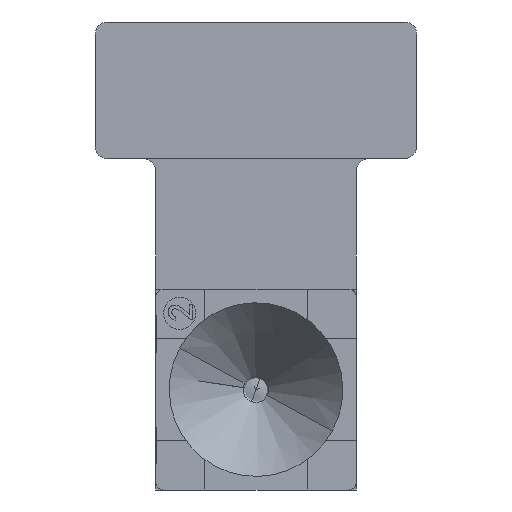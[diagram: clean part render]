
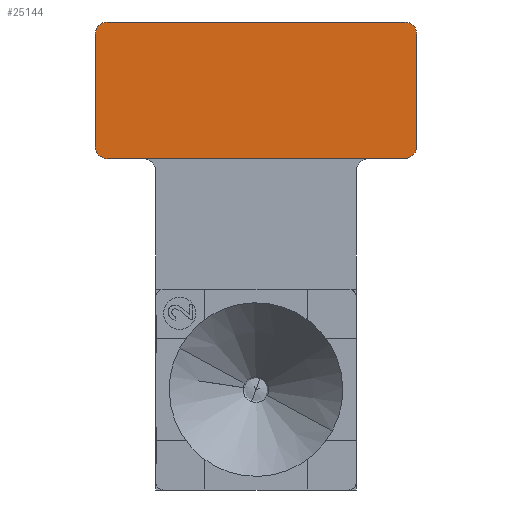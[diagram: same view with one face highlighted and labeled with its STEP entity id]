
A CAD part, front view. The second image highlights one B-rep face of the part: STEP entity #25144.
In plain terms, the highlighted planar face has unit normal (0, -1, 0) as drawn and (0, 0, 1) by its records, which use the part's own axes.
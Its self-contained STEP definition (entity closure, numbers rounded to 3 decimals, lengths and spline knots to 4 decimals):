
#25052=VECTOR('Line Direction',#25051,1.) ;
#25085=VECTOR('Line Direction',#25084,1.) ;
#25108=VECTOR('Line Direction',#25107,1.) ;
#25131=VECTOR('Line Direction',#25130,1.) ;
#24930=DIRECTION('Axis2P3D Direction',(0.,0.,-1.)) ;
#25051=DIRECTION('Vector Direction',(0.,-1.,0.)) ;
#25063=DIRECTION('Axis2P3D Direction',(0.,0.,-1.)) ;
#25064=DIRECTION('Axis2P3D XDirection',(-1.,0.,0.)) ;
#25084=DIRECTION('Vector Direction',(1.,0.,0.)) ;
#25107=DIRECTION('Vector Direction',(0.,1.,0.)) ;
#25130=DIRECTION('Vector Direction',(-1.,0.,0.)) ;
#24926=CARTESIAN_POINT('Vertex',(-3.2091,-9.9399,0.35)) ;
#24929=CARTESIAN_POINT('Axis2P3D Location',(-2.9091,-9.9399,0.35)) ;
#24933=CARTESIAN_POINT('Vertex',(-2.9091,-9.6399,0.35)) ;
#25047=CARTESIAN_POINT('Vertex',(-3.2091,-12.7399,0.35)) ;
#25050=CARTESIAN_POINT('Line Origine',(-3.2091,-11.3399,0.35)) ;
#25062=CARTESIAN_POINT('Axis2P3D Location',(-2.9091,-9.9399,0.35)) ;
#25068=CARTESIAN_POINT('Control Point',(-3.2091,-12.7399,0.35)) ;
#25069=CARTESIAN_POINT('Control Point',(-3.2091,-12.7771,0.35)) ;
#25070=CARTESIAN_POINT('Control Point',(-3.2033,-12.8142,0.35)) ;
#25071=CARTESIAN_POINT('Control Point',(-3.1907,-12.8531,0.35)) ;
#25072=CARTESIAN_POINT('Control Point',(-3.1562,-12.92,0.35)) ;
#25073=CARTESIAN_POINT('Control Point',(-3.1031,-12.9733,0.35)) ;
#25074=CARTESIAN_POINT('Control Point',(-3.0699,-12.9973,0.35)) ;
#25075=CARTESIAN_POINT('Control Point',(-3.0195,-13.0226,0.35)) ;
#25076=CARTESIAN_POINT('Control Point',(-2.9651,-13.0355,0.35)) ;
#25077=CARTESIAN_POINT('Control Point',(-2.9463,-13.0385,0.35)) ;
#25078=CARTESIAN_POINT('Control Point',(-2.9277,-13.0399,0.35)) ;
#25079=CARTESIAN_POINT('Control Point',(-2.9091,-13.0399,0.35)) ;
#25080=CARTESIAN_POINT('Vertex',(-2.9091,-13.0399,0.35)) ;
#25083=CARTESIAN_POINT('Line Origine',(0.7909,-13.0399,0.35)) ;
#25087=CARTESIAN_POINT('Vertex',(4.4909,-13.0399,0.35)) ;
#25091=CARTESIAN_POINT('Control Point',(4.4909,-13.0399,0.35)) ;
#25092=CARTESIAN_POINT('Control Point',(4.5281,-13.0399,0.35)) ;
#25093=CARTESIAN_POINT('Control Point',(4.5653,-13.0341,0.35)) ;
#25094=CARTESIAN_POINT('Control Point',(4.6041,-13.0215,0.35)) ;
#25095=CARTESIAN_POINT('Control Point',(4.671,-12.987,0.35)) ;
#25096=CARTESIAN_POINT('Control Point',(4.7243,-12.9339,0.35)) ;
#25097=CARTESIAN_POINT('Control Point',(4.7483,-12.9007,0.35)) ;
#25098=CARTESIAN_POINT('Control Point',(4.7736,-12.8503,0.35)) ;
#25099=CARTESIAN_POINT('Control Point',(4.7865,-12.7959,0.35)) ;
#25100=CARTESIAN_POINT('Control Point',(4.7895,-12.7771,0.35)) ;
#25101=CARTESIAN_POINT('Control Point',(4.7909,-12.7585,0.35)) ;
#25102=CARTESIAN_POINT('Control Point',(4.7909,-12.7399,0.35)) ;
#25103=CARTESIAN_POINT('Vertex',(4.7909,-12.7399,0.35)) ;
#25106=CARTESIAN_POINT('Line Origine',(4.7909,-11.3399,0.35)) ;
#25110=CARTESIAN_POINT('Vertex',(4.7909,-9.9399,0.35)) ;
#25114=CARTESIAN_POINT('Control Point',(4.7909,-9.9399,0.35)) ;
#25115=CARTESIAN_POINT('Control Point',(4.7909,-9.9027,0.35)) ;
#25116=CARTESIAN_POINT('Control Point',(4.7852,-9.8655,0.35)) ;
#25117=CARTESIAN_POINT('Control Point',(4.7725,-9.8267,0.35)) ;
#25118=CARTESIAN_POINT('Control Point',(4.738,-9.7598,0.35)) ;
#25119=CARTESIAN_POINT('Control Point',(4.6849,-9.7065,0.35)) ;
#25120=CARTESIAN_POINT('Control Point',(4.6518,-9.6825,0.35)) ;
#25121=CARTESIAN_POINT('Control Point',(4.6013,-9.6572,0.35)) ;
#25122=CARTESIAN_POINT('Control Point',(4.5469,-9.6443,0.35)) ;
#25123=CARTESIAN_POINT('Control Point',(4.5281,-9.6413,0.35)) ;
#25124=CARTESIAN_POINT('Control Point',(4.5095,-9.6399,0.35)) ;
#25125=CARTESIAN_POINT('Control Point',(4.4909,-9.6399,0.35)) ;
#25126=CARTESIAN_POINT('Vertex',(4.4909,-9.6399,0.35)) ;
#25129=CARTESIAN_POINT('Line Origine',(0.7909,-9.6399,0.35)) ;
#24931=AXIS2_PLACEMENT_3D('Circle Axis2P3D',#24929,#24930,$) ;
#25065=AXIS2_PLACEMENT_3D('Plane Axis2P3D',#25062,#25063,#25064) ;
#24935=EDGE_CURVE('',#24934,#24927,#24932,.F.) ;
#25054=EDGE_CURVE('',#24927,#25048,#25053,.T.) ;
#25082=EDGE_CURVE('',#25048,#25081,#25067,.T.) ;
#25089=EDGE_CURVE('',#25081,#25088,#25086,.T.) ;
#25105=EDGE_CURVE('',#25088,#25104,#25090,.T.) ;
#25112=EDGE_CURVE('',#25104,#25111,#25109,.T.) ;
#25128=EDGE_CURVE('',#25111,#25127,#25113,.T.) ;
#25133=EDGE_CURVE('',#25127,#24934,#25132,.T.) ;
#25066=PLANE('Plane',#25065) ;
#25135=ORIENTED_EDGE('',*,*,#24935,.T.) ;
#25136=ORIENTED_EDGE('',*,*,#25054,.T.) ;
#25137=ORIENTED_EDGE('',*,*,#25082,.T.) ;
#25138=ORIENTED_EDGE('',*,*,#25089,.T.) ;
#25139=ORIENTED_EDGE('',*,*,#25105,.T.) ;
#25140=ORIENTED_EDGE('',*,*,#25112,.T.) ;
#25141=ORIENTED_EDGE('',*,*,#25128,.T.) ;
#25142=ORIENTED_EDGE('',*,*,#25133,.T.) ;
#25053=LINE('Line',#25050,#25052) ;
#25086=LINE('Line',#25083,#25085) ;
#25109=LINE('Line',#25106,#25108) ;
#25132=LINE('Line',#25129,#25131) ;
#25144=ADVANCED_FACE('\X2\51F853F0\X0\-\X2\62C94F38\X0\1',(#25143),#25066,.F.) ;
#24932=CIRCLE('generated circle',#24931,0.3) ;
#24927=VERTEX_POINT('',#24926) ;
#24934=VERTEX_POINT('',#24933) ;
#25048=VERTEX_POINT('',#25047) ;
#25081=VERTEX_POINT('',#25080) ;
#25088=VERTEX_POINT('',#25087) ;
#25104=VERTEX_POINT('',#25103) ;
#25111=VERTEX_POINT('',#25110) ;
#25127=VERTEX_POINT('',#25126) ;
#25067=B_SPLINE_CURVE_WITH_KNOTS('',5,(#25068,#25069,#25070,#25071,#25072,#25073,#25074,#25075,#25076,#25077,#25078,#25079),.UNSPECIFIED.,.F.,.U.,(6,3,3,6),(0.,0.2656,0.5313,0.6641),.UNSPECIFIED.) ;
#25090=B_SPLINE_CURVE_WITH_KNOTS('',5,(#25091,#25092,#25093,#25094,#25095,#25096,#25097,#25098,#25099,#25100,#25101,#25102),.UNSPECIFIED.,.F.,.U.,(6,3,3,6),(0.,0.2656,0.5313,0.6641),.UNSPECIFIED.) ;
#25113=B_SPLINE_CURVE_WITH_KNOTS('',5,(#25114,#25115,#25116,#25117,#25118,#25119,#25120,#25121,#25122,#25123,#25124,#25125),.UNSPECIFIED.,.F.,.U.,(6,3,3,6),(0.,0.2656,0.5313,0.6641),.UNSPECIFIED.) ;
#25134=EDGE_LOOP('',(#25135,#25136,#25137,#25138,#25139,#25140,#25141,#25142)) ;
#25143=FACE_OUTER_BOUND('',#25134,.T.) ;
